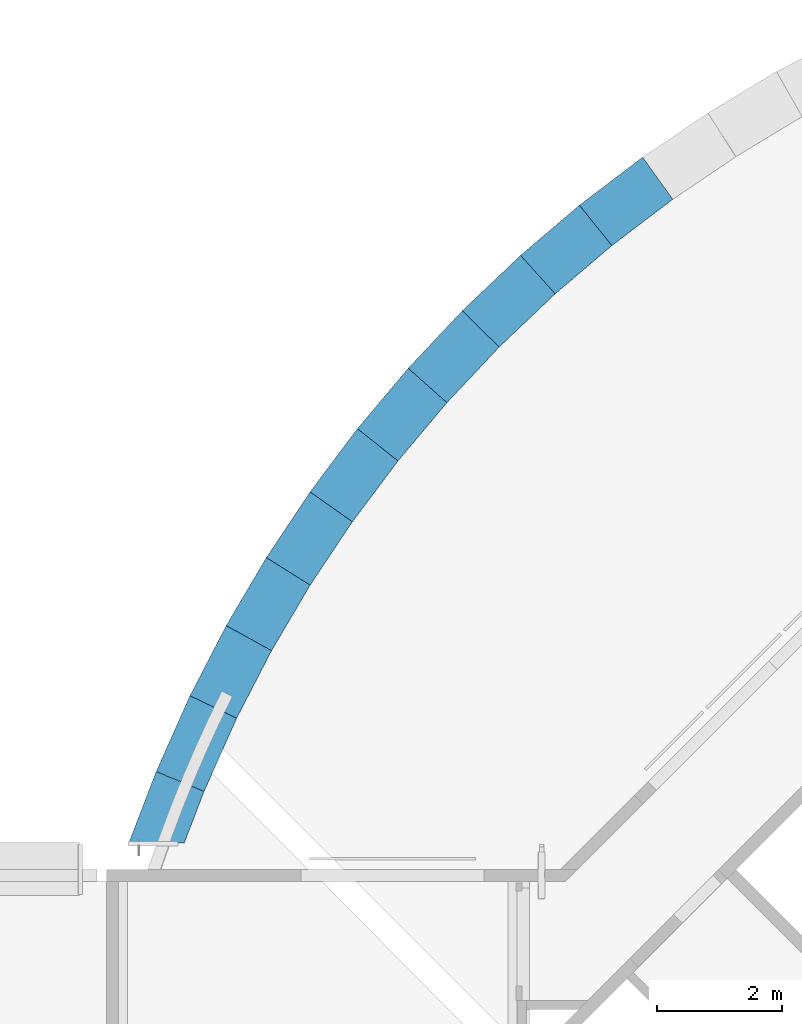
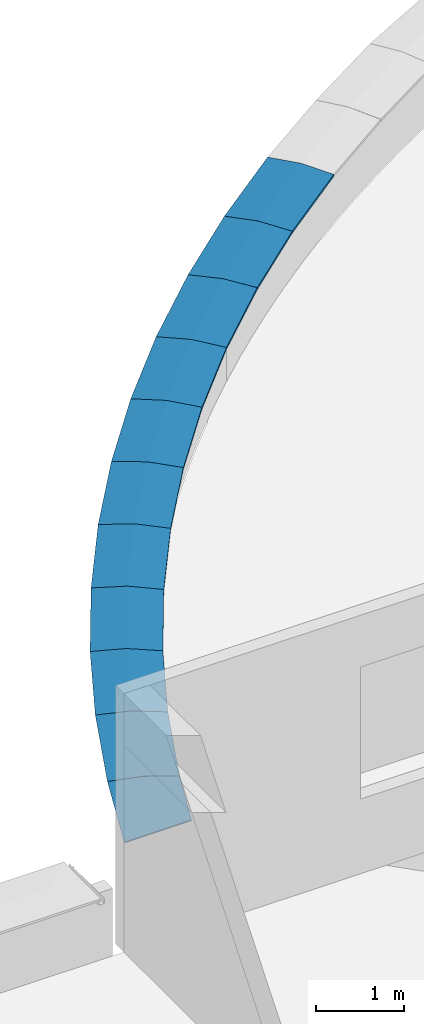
# One storey, part 31 of 38: 11 discrete accessories.
"""IFC4X3_ADD2 building model written with IfcOpenShell, lengths in millimetres."""

from ifc_helpers import new_model, si_unit, direction, frame, origin_with_axes, place, context, subcontext, project, spatial, polygons, source, transform, mapped, material, element, save


model = new_model("IFC4X3_ADD2")

# Units and contexts
model_context = context("Model", 3, precision=1e-05, world=origin_with_axes(), true_north=direction((0.0, 1.0)))
body_context = subcontext(model_context, "Body", "Model", "MODEL_VIEW")
ifc_project = project(units=[si_unit("LENGTHUNIT", "METRE", prefix="MILLI"), si_unit("AREAUNIT", "SQUARE_METRE"), si_unit("VOLUMEUNIT", "CUBIC_METRE"), si_unit("PLANEANGLEUNIT", "RADIAN"), si_unit("TIMEUNIT", "SECOND"), si_unit("MASSUNIT", "GRAM")], contexts=[model_context])

# Site, building, storey
site_placement = place(None, origin_with_axes())
site = spatial("IfcSite", under=ifc_project, at=site_placement, Name="Site", CompositionType="ELEMENT")
building_placement = place(site_placement, origin_with_axes())
building = spatial("IfcBuilding", under=site, at=building_placement, Name="IFC Building Story")
storey_placement = place(building_placement, frame((0.0, 0.0, 10800.0), z_axis=(0.0, 0.0, 1.0), x_axis=(1.0, 0.0, 0.0)))
storey = spatial("IfcBuildingStorey", under=building, at=storey_placement, Name="030", Elevation=10800.0)

# Discrete accessories
ifc_material = material(Name="BB_Metaal_Aluminium_Buitenschrijnwerk")
shared_shape_1 = source(origin_with_axes(), body_context, "Body", "Tessellation", [
    polygons([(-1.29786000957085, -46.4641064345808, -1.69828907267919), (-0.8938409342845, -32.0000000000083, -23.3944487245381), (-0.89384093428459, -32.0000000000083, -20.0000000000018), (-0.837975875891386, -30.0000000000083, -20.0000000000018), (-0.837975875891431, -30.0000000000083, -30.0000000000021), (-1.3966264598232, -50.0000000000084, -1.89268853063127e-12), (10.1953731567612, 364.999999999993, 36.3077953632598), (21.7873727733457, 779.999999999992, -1.76670900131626e-12), (21.7873727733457, 779.999999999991, -30.0000000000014), (21.5080474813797, 769.999999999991, -20.0000000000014), (21.5475500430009, 771.414213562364, -18.5857864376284), (21.7315077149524, 777.999999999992, -25.1715728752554), (21.7315077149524, 777.999999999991, -1.83266234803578), (10.1953731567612, 364.999999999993, 34.300155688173), (1282.59875396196, -32.0000000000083, -23.3944487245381), (1283.00277303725, -46.4641064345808, -1.69828907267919), (1271.50953987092, 364.999999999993, 34.300155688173), (1259.97340531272, 777.999999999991, -1.83266234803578), (1259.97340531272, 777.999999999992, -25.1715728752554), (1260.15736298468, 771.414213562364, -18.5857864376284), (1260.1968655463, 769.999999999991, -20.0000000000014), (1259.91754025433, 779.999999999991, -30.0000000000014), (1259.91754025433, 779.999999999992, -1.76670900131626e-12), (1271.50953987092, 364.999999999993, 36.3077953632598), (1283.1015394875, -50.0000000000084, -1.89293471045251e-12), (1282.54288890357, -30.0000000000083, -30.0000000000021), (1282.54288890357, -30.0000000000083, -20.0000000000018), (1282.59875396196, -32.0000000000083, -20.0000000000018)], [[[2, 3, 4]], [[2, 4, 5]], [[5, 6, 1]], [[5, 1, 2]], [[14, 1, 6]], [[14, 6, 7]], [[7, 8, 13]], [[7, 13, 14]], [[8, 9, 12]], [[8, 12, 13]], [[9, 10, 11]], [[9, 11, 12]], [[19, 20, 21]], [[19, 21, 22]], [[22, 23, 18]], [[22, 18, 19]], [[23, 24, 17]], [[23, 17, 18]], [[24, 25, 16]], [[24, 16, 17]], [[25, 26, 15]], [[25, 15, 16]], [[26, 27, 15]], [[27, 28, 15]], [[2, 1, 16, 15]], [[1, 14, 17, 16]], [[7, 6, 25, 24]], [[4, 3, 28, 27]], [[6, 5, 26, 25]], [[3, 2, 15, 28]], [[5, 4, 27, 26]], [[8, 7, 24, 23]], [[14, 13, 18, 17]], [[9, 8, 23, 22]], [[10, 9, 22, 21]], [[11, 10, 21, 20]], [[12, 11, 20, 19]], [[13, 12, 19, 18]]]),
])
discrete_accessory_1_placement = place(storey_placement, frame((-38713.1482171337, 40525.1638681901, 830.0), z_axis=(0.0, 0.0, 1.0), x_axis=(-0.7248991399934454, -0.6888550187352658, 0.0)))
element("IfcDiscreteAccessory", 1, at=discrete_accessory_1_placement, inside=storey, material=ifc_material, Name="BB_05.10.23#04_AluminiumMuurafdek, 830 mm_GLI:XX_Geen", ObjectType="BB_05.10.23#04_AluminiumMuurafdek, 830 mm_GLI:XX_Geen", PredefinedType="USERDEFINED", context=body_context, shape_type="MappedRepresentation", body=[
    mapped(shared_shape_1, transform((0.0, 0.0, 0.0))),
])
shared_shape_2 = source(origin_with_axes(), body_context, "Body", "Tessellation", [
    polygons([(-1.2978600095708, 46.4641064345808, -1.69828907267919), (10.1953731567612, -364.999999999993, 34.300155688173), (21.7315077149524, -777.999999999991, -1.83266234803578), (21.7315077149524, -777.999999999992, -25.1715728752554), (21.5475500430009, -771.414213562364, -18.5857864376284), (21.5080474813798, -769.999999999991, -20.0000000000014), (21.7873727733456, -779.999999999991, -30.0000000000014), (21.7873727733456, -779.999999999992, -1.76670900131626e-12), (10.1953731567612, -364.999999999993, 36.3077953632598), (-1.3966264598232, 50.0000000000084, -1.89409851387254e-12), (-0.837975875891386, 30.0000000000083, -30.0000000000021), (-0.837975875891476, 30.0000000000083, -20.0000000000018), (-0.89384093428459, 32.0000000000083, -20.0000000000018), (-0.893840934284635, 32.0000000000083, -23.3944487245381), (1266.17153597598, 32.0000000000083, -23.3944487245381), (1266.17153597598, 32.0000000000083, -20.0000000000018), (1266.11567091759, 30.0000000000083, -20.0000000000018), (1266.11567091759, 30.0000000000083, -30.0000000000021), (1266.67432150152, 50.0000000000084, -1.89691848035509e-12), (1255.08232188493, -364.999999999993, 36.3077953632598), (1243.49032226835, -779.999999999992, -1.76670900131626e-12), (1243.49032226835, -779.999999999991, -30.0000000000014), (1243.76964756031, -769.999999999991, -20.0000000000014), (1243.73014499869, -771.414213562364, -18.5857864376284), (1243.54618732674, -777.999999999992, -25.1715728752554), (1243.54618732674, -777.999999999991, -1.83266234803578), (1255.08232188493, -364.999999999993, 34.300155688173), (1266.57555505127, 46.4641064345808, -1.69828907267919)], [[[4, 5, 6]], [[4, 6, 7]], [[7, 8, 3]], [[7, 3, 4]], [[8, 9, 2]], [[8, 2, 3]], [[9, 10, 1]], [[9, 1, 2]], [[14, 1, 10]], [[14, 10, 11]], [[11, 12, 14]], [[12, 13, 14]], [[15, 16, 17]], [[15, 17, 18]], [[18, 19, 28]], [[18, 28, 15]], [[19, 20, 27]], [[19, 27, 28]], [[20, 21, 26]], [[20, 26, 27]], [[21, 22, 25]], [[21, 25, 26]], [[22, 23, 24]], [[22, 24, 25]], [[14, 15, 28, 1]], [[1, 28, 27, 2]], [[9, 20, 19, 10]], [[12, 17, 16, 13]], [[10, 19, 18, 11]], [[13, 16, 15, 14]], [[11, 18, 17, 12]], [[8, 21, 20, 9]], [[2, 27, 26, 3]], [[7, 22, 21, 8]], [[6, 23, 22, 7]], [[5, 24, 23, 6]], [[4, 25, 24, 5]], [[3, 26, 25, 4]]]),
])
discrete_accessory_2_placement = place(storey_placement, frame((-40508.7930561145, 38720.2791639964, 830.0), z_axis=(0.0, 0.0, 1.0), x_axis=(0.6848599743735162, 0.7286746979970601, 0.0)))
element("IfcDiscreteAccessory", 2, at=discrete_accessory_2_placement, inside=storey, material=ifc_material, Name="BB_05.10.23#04_AluminiumMuurafdek, 830 mm_GLI:XX_Geen", ObjectType="BB_05.10.23#04_AluminiumMuurafdek, 830 mm_GLI:XX_Geen", PredefinedType="USERDEFINED", context=body_context, shape_type="MappedRepresentation", body=[
    mapped(shared_shape_2, transform((0.0, 0.0, 0.0))),
])
shared_shape_3 = source(origin_with_axes(), body_context, "Body", "Tessellation", [
    polygons([(-1.29786000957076, 46.4641064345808, -1.6982890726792), (10.1953731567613, -364.999999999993, 34.300155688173), (21.7315077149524, -777.999999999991, -1.83266234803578), (21.7315077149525, -777.999999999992, -25.1715728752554), (21.5475500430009, -771.414213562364, -18.5857864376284), (21.5080474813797, -769.999999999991, -20.0000000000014), (21.7873727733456, -779.999999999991, -30.0000000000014), (21.7873727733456, -779.999999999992, -1.76670900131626e-12), (10.1953731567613, -364.999999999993, 36.3077953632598), (-1.39662645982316, 50.0000000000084, -1.89691848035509e-12), (-0.837975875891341, 30.0000000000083, -30.0000000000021), (-0.837975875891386, 30.0000000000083, -20.0000000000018), (-0.89384093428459, 32.0000000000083, -20.0000000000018), (-0.89384093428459, 32.0000000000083, -23.3944487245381), (1262.53313159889, 32.0000000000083, -23.3944487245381), (1262.53313159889, 32.0000000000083, -20.0000000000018), (1262.4772665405, 30.0000000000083, -20.0000000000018), (1262.4772665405, 30.0000000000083, -30.0000000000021), (1263.03591712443, 50.0000000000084, -1.89691848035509e-12), (1251.44391750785, -364.999999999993, 36.3077953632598), (1239.85191789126, -779.999999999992, -1.76670900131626e-12), (1239.85191789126, -779.999999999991, -30.0000000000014), (1240.13124318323, -769.999999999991, -20.0000000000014), (1240.09174062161, -771.414213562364, -18.5857864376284), (1239.90778294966, -777.999999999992, -25.1715728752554), (1239.90778294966, -777.999999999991, -1.83266234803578), (1251.44391750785, -364.999999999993, 34.300155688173), (1262.93715067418, 46.4641064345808, -1.69828907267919)], [[[4, 5, 6]], [[4, 6, 7]], [[7, 8, 3]], [[7, 3, 4]], [[8, 9, 2]], [[8, 2, 3]], [[9, 10, 1]], [[9, 1, 2]], [[14, 1, 10]], [[14, 10, 11]], [[11, 12, 14]], [[12, 13, 14]], [[15, 16, 17]], [[15, 17, 18]], [[18, 19, 28]], [[18, 28, 15]], [[19, 20, 27]], [[19, 27, 28]], [[20, 21, 26]], [[20, 26, 27]], [[21, 22, 25]], [[21, 25, 26]], [[22, 23, 24]], [[22, 24, 25]], [[14, 15, 28, 1]], [[1, 28, 27, 2]], [[9, 20, 19, 10]], [[12, 17, 16, 13]], [[10, 19, 18, 11]], [[13, 16, 15, 14]], [[11, 18, 17, 12]], [[8, 21, 20, 9]], [[2, 27, 26, 3]], [[7, 22, 21, 8]], [[6, 23, 22, 7]], [[5, 24, 23, 6]], [[4, 25, 24, 5]], [[3, 26, 25, 4]]]),
])
discrete_accessory_3_placement = place(storey_placement, frame((-41320.4305919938, 37754.3711921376, 830.0), z_axis=(0.0, 0.0, 1.0), x_axis=(0.6433197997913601, 0.7655975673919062, 0.0)))
element("IfcDiscreteAccessory", 3, at=discrete_accessory_3_placement, inside=storey, material=ifc_material, Name="BB_05.10.23#04_AluminiumMuurafdek, 830 mm_GLI:XX_Geen", ObjectType="BB_05.10.23#04_AluminiumMuurafdek, 830 mm_GLI:XX_Geen", PredefinedType="USERDEFINED", context=body_context, shape_type="MappedRepresentation", body=[
    mapped(shared_shape_3, transform((0.0, 0.0, 0.0))),
])
shared_shape_4 = source(origin_with_axes(), body_context, "Body", "Tessellation", [
    polygons([(-1.29786000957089, 46.4641064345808, -1.69828907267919), (10.1953731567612, -364.999999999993, 34.300155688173), (21.7315077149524, -777.999999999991, -1.83266234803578), (21.7315077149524, -777.999999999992, -25.1715728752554), (21.5475500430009, -771.414213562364, -18.5857864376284), (21.5080474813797, -769.999999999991, -20.0000000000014), (21.7873727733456, -779.999999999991, -30.0000000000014), (21.7873727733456, -779.999999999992, -1.76670900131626e-12), (10.1953731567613, -364.999999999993, 36.3077953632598), (-1.39662645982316, 50.0000000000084, -1.89691848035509e-12), (-0.837975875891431, 30.0000000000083, -30.0000000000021), (-0.837975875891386, 30.0000000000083, -20.0000000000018), (-0.89384093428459, 32.0000000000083, -20.0000000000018), (-0.89384093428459, 32.0000000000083, -23.3944487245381), (1262.83624447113, 32.0000000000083, -23.3944487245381), (1262.83624447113, 32.0000000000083, -20.0000000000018), (1262.78037941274, 30.0000000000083, -20.0000000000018), (1262.78037941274, 30.0000000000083, -30.0000000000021), (1263.33902999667, 50.0000000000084, -1.89691848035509e-12), (1251.74703038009, -364.999999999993, 36.3077953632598), (1240.1550307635, -779.999999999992, -1.76670900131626e-12), (1240.1550307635, -779.999999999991, -30.0000000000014), (1240.43435605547, -769.999999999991, -20.0000000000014), (1240.39485349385, -771.414213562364, -18.5857864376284), (1240.2108958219, -777.999999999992, -25.1715728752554), (1240.2108958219, -777.999999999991, -1.83266234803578), (1251.74703038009, -364.999999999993, 34.300155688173), (1263.24026354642, 46.4641064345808, -1.69828907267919)], [[[4, 5, 6]], [[4, 6, 7]], [[7, 8, 3]], [[7, 3, 4]], [[8, 9, 2]], [[8, 2, 3]], [[9, 10, 1]], [[9, 1, 2]], [[14, 1, 10]], [[14, 10, 11]], [[11, 12, 14]], [[12, 13, 14]], [[15, 16, 17]], [[15, 17, 18]], [[18, 19, 28]], [[18, 28, 15]], [[19, 20, 27]], [[19, 27, 28]], [[20, 21, 26]], [[20, 26, 27]], [[21, 22, 25]], [[21, 25, 26]], [[22, 23, 24]], [[22, 24, 25]], [[14, 15, 28, 1]], [[1, 28, 27, 2]], [[9, 20, 19, 10]], [[12, 17, 16, 13]], [[10, 19, 18, 11]], [[13, 16, 15, 14]], [[11, 18, 17, 12]], [[8, 21, 20, 9]], [[2, 27, 26, 3]], [[7, 22, 21, 8]], [[6, 23, 22, 7]], [[5, 24, 23, 6]], [[4, 25, 24, 5]], [[3, 26, 25, 4]]]),
])
discrete_accessory_4_placement = place(storey_placement, frame((-42077.4082609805, 36744.6764667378, 830.0), z_axis=(0.0, 0.0, 1.0), x_axis=(0.5998512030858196, 0.8001115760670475, 0.0)))
element("IfcDiscreteAccessory", 4, at=discrete_accessory_4_placement, inside=storey, material=ifc_material, Name="BB_05.10.23#04_AluminiumMuurafdek, 830 mm_GLI:XX_Geen", ObjectType="BB_05.10.23#04_AluminiumMuurafdek, 830 mm_GLI:XX_Geen", PredefinedType="USERDEFINED", context=body_context, shape_type="MappedRepresentation", body=[
    mapped(shared_shape_4, transform((0.0, 0.0, 0.0))),
])
shared_shape_5 = source(origin_with_axes(), body_context, "Body", "Tessellation", [
    polygons([(-1.29786000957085, 46.4641064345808, -1.69828907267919), (10.1953731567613, -364.999999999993, 34.300155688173), (21.7315077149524, -777.999999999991, -1.83266234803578), (21.7315077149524, -777.999999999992, -25.1715728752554), (21.5475500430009, -771.414213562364, -18.5857864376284), (21.5080474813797, -769.999999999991, -20.0000000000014), (21.7873727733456, -779.999999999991, -30.0000000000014), (21.7873727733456, -779.999999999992, -1.76670900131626e-12), (10.1953731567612, -364.999999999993, 36.3077953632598), (-1.39662645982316, 50.0000000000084, -1.89691848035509e-12), (-0.837975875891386, 30.0000000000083, -30.0000000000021), (-0.837975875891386, 30.0000000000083, -20.0000000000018), (-0.89384093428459, 32.0000000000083, -20.0000000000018), (-0.893840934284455, 32.0000000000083, -23.3944487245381), (1262.67655696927, 32.0000000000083, -23.3944487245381), (1262.67655696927, 32.0000000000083, -20.0000000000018), (1262.62069191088, 30.0000000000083, -20.0000000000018), (1262.62069191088, 30.0000000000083, -30.0000000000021), (1263.17934249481, 50.0000000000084, -1.89434469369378e-12), (1251.58734287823, -364.999999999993, 36.3077953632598), (1239.99534326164, -779.999999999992, -1.76670900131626e-12), (1239.99534326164, -779.999999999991, -30.0000000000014), (1240.27466855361, -769.999999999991, -20.0000000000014), (1240.23516599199, -771.414213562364, -18.5857864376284), (1240.05120832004, -777.999999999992, -25.1715728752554), (1240.05120832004, -777.999999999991, -1.83266234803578), (1251.58734287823, -364.999999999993, 34.300155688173), (1263.08057604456, 46.4641064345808, -1.69828907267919)], [[[4, 5, 6]], [[4, 6, 7]], [[7, 8, 3]], [[7, 3, 4]], [[8, 9, 2]], [[8, 2, 3]], [[9, 10, 1]], [[9, 1, 2]], [[14, 1, 10]], [[14, 10, 11]], [[11, 12, 14]], [[12, 13, 14]], [[15, 16, 17]], [[15, 17, 18]], [[18, 19, 28]], [[18, 28, 15]], [[19, 20, 27]], [[19, 27, 28]], [[20, 21, 26]], [[20, 26, 27]], [[21, 22, 25]], [[21, 25, 26]], [[22, 23, 24]], [[22, 24, 25]], [[14, 15, 28, 1]], [[1, 28, 27, 2]], [[9, 20, 19, 10]], [[12, 17, 16, 13]], [[10, 19, 18, 11]], [[13, 16, 15, 14]], [[11, 18, 17, 12]], [[8, 21, 20, 9]], [[2, 27, 26, 3]], [[7, 22, 21, 8]], [[6, 23, 22, 7]], [[5, 24, 23, 6]], [[4, 25, 24, 5]], [[3, 26, 25, 4]]]),
])
discrete_accessory_5_placement = place(storey_placement, frame((-42777.1071506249, 35694.668330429, 830.0), z_axis=(0.0, 0.0, 1.0), x_axis=(0.5545319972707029, 0.8321624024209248, 0.0)))
element("IfcDiscreteAccessory", 5, at=discrete_accessory_5_placement, inside=storey, material=ifc_material, Name="BB_05.10.23#04_AluminiumMuurafdek, 830 mm_GLI:XX_Geen", ObjectType="BB_05.10.23#04_AluminiumMuurafdek, 830 mm_GLI:XX_Geen", PredefinedType="USERDEFINED", context=body_context, shape_type="MappedRepresentation", body=[
    mapped(shared_shape_5, transform((0.0, 0.0, 0.0))),
])
shared_shape_6 = source(origin_with_axes(), body_context, "Body", "Tessellation", [
    polygons([(-1.29786000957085, 46.4641064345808, -1.6982890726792), (10.1953731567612, -364.999999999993, 34.300155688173), (21.7315077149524, -777.999999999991, -1.83266234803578), (21.7315077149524, -777.999999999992, -25.1715728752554), (21.547550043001, -771.414213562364, -18.5857864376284), (21.5080474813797, -769.999999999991, -20.0000000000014), (21.7873727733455, -779.999999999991, -30.0000000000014), (21.7873727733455, -779.999999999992, -1.76670900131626e-12), (10.1953731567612, -364.999999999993, 36.3077953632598), (-1.39662645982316, 50.0000000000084, -1.89268853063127e-12), (-0.837975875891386, 30.0000000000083, -30.0000000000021), (-0.837975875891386, 30.0000000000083, -20.0000000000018), (-0.893840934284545, 32.0000000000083, -20.0000000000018), (-0.89384093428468, 32.0000000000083, -23.3944487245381), (1262.54091999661, 32.0000000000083, -23.3944487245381), (1262.54091999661, 32.0000000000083, -20.0000000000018), (1262.48505493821, 30.0000000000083, -20.0000000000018), (1262.48505493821, 30.0000000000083, -30.0000000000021), (1263.04370552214, 50.0000000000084, -1.89691848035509e-12), (1251.45170590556, -364.999999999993, 36.3077953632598), (1239.85970628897, -779.999999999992, -1.76670900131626e-12), (1239.85970628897, -779.999999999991, -30.0000000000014), (1240.13903158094, -769.999999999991, -20.0000000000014), (1240.09952901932, -771.414213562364, -18.5857864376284), (1239.91557134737, -777.999999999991, -25.1715728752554), (1239.91557134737, -777.999999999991, -1.83266234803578), (1251.45170590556, -364.999999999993, 34.300155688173), (1262.94493907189, 46.4641064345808, -1.6982890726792)], [[[4, 5, 6]], [[4, 6, 7]], [[7, 8, 3]], [[7, 3, 4]], [[8, 9, 2]], [[8, 2, 3]], [[9, 10, 1]], [[9, 1, 2]], [[14, 1, 10]], [[14, 10, 11]], [[11, 12, 14]], [[12, 13, 14]], [[15, 16, 17]], [[15, 17, 18]], [[18, 19, 28]], [[18, 28, 15]], [[19, 20, 27]], [[19, 27, 28]], [[20, 21, 26]], [[20, 26, 27]], [[21, 22, 25]], [[21, 25, 26]], [[22, 23, 24]], [[22, 24, 25]], [[14, 15, 28, 1]], [[1, 28, 27, 2]], [[9, 20, 19, 10]], [[12, 17, 16, 13]], [[10, 19, 18, 11]], [[13, 16, 15, 14]], [[11, 18, 17, 12]], [[8, 21, 20, 9]], [[2, 27, 26, 3]], [[7, 22, 21, 8]], [[6, 23, 22, 7]], [[5, 24, 23, 6]], [[4, 25, 24, 5]], [[3, 26, 25, 4]]]),
])
discrete_accessory_6_placement = place(storey_placement, frame((-43417.4054448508, 34607.5752127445, 830.0), z_axis=(0.0, 0.0, 1.0), x_axis=(0.5075098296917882, 0.8616459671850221, 0.0)))
element("IfcDiscreteAccessory", 6, at=discrete_accessory_6_placement, inside=storey, material=ifc_material, Name="BB_05.10.23#04_AluminiumMuurafdek, 830 mm_GLI:XX_Geen", ObjectType="BB_05.10.23#04_AluminiumMuurafdek, 830 mm_GLI:XX_Geen", PredefinedType="USERDEFINED", context=body_context, shape_type="MappedRepresentation", body=[
    mapped(shared_shape_6, transform((0.0, 0.0, 0.0))),
])
shared_shape_7 = source(origin_with_axes(), body_context, "Body", "Tessellation", [
    polygons([(-1.29786000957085, 46.4641064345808, -1.69828907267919), (10.1953731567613, -364.999999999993, 34.300155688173), (21.7315077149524, -777.999999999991, -1.83266234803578), (21.7315077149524, -777.999999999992, -25.1715728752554), (21.547550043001, -771.414213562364, -18.5857864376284), (21.5080474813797, -769.999999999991, -20.0000000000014), (21.7873727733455, -779.999999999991, -30.0000000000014), (21.7873727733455, -779.999999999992, -1.76670900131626e-12), (10.1953731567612, -364.999999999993, 36.3077953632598), (-1.39662645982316, 50.0000000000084, -1.89268853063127e-12), (-0.837975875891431, 30.0000000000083, -30.0000000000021), (-0.837975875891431, 30.0000000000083, -20.0000000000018), (-0.893840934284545, 32.0000000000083, -20.0000000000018), (-0.893840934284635, 32.0000000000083, -23.3944487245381), (1262.42975639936, 32.0000000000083, -23.3944487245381), (1262.42975639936, 32.0000000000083, -20.0000000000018), (1262.37389134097, 30.0000000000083, -20.0000000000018), (1262.37389134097, 30.0000000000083, -30.0000000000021), (1262.9325419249, 50.0000000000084, -1.89434469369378e-12), (1251.34054230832, -364.999999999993, 36.3077953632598), (1239.74854269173, -779.999999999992, -1.76670900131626e-12), (1239.74854269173, -779.999999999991, -30.0000000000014), (1240.0278679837, -769.999999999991, -20.0000000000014), (1239.98836542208, -771.414213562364, -18.5857864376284), (1239.80440775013, -777.999999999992, -25.1715728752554), (1239.80440775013, -777.999999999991, -1.83266234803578), (1251.34054230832, -364.999999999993, 34.300155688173), (1262.83377547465, 46.4641064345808, -1.69828907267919)], [[[4, 5, 6]], [[4, 6, 7]], [[7, 8, 3]], [[7, 3, 4]], [[8, 9, 2]], [[8, 2, 3]], [[9, 10, 1]], [[9, 1, 2]], [[14, 1, 10]], [[14, 10, 11]], [[11, 12, 14]], [[12, 13, 14]], [[15, 16, 17]], [[15, 17, 18]], [[18, 19, 28]], [[18, 28, 15]], [[19, 20, 27]], [[19, 27, 28]], [[20, 21, 26]], [[20, 26, 27]], [[21, 22, 25]], [[21, 25, 26]], [[22, 23, 24]], [[22, 24, 25]], [[14, 15, 28, 1]], [[1, 28, 27, 2]], [[9, 20, 19, 10]], [[12, 17, 16, 13]], [[10, 19, 18, 11]], [[13, 16, 15, 14]], [[11, 18, 17, 12]], [[8, 21, 20, 9]], [[2, 27, 26, 3]], [[7, 22, 21, 8]], [[6, 23, 22, 7]], [[5, 24, 23, 6]], [[4, 25, 24, 5]], [[3, 26, 25, 4]]]),
])
discrete_accessory_7_placement = place(storey_placement, frame((-43996.3610771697, 33486.734795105, 830.0), z_axis=(0.0, 0.0, 1.0), x_axis=(0.4589291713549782, 0.8884728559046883, 0.0)))
element("IfcDiscreteAccessory", 7, at=discrete_accessory_7_placement, inside=storey, material=ifc_material, Name="BB_05.10.23#04_AluminiumMuurafdek, 830 mm_GLI:XX_Geen", ObjectType="BB_05.10.23#04_AluminiumMuurafdek, 830 mm_GLI:XX_Geen", PredefinedType="USERDEFINED", context=body_context, shape_type="MappedRepresentation", body=[
    mapped(shared_shape_7, transform((0.0, 0.0, 0.0))),
])
shared_shape_8 = source(origin_with_axes(), body_context, "Body", "Tessellation", [
    polygons([(-1.29786000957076, 46.4641064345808, -1.6982890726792), (10.1953731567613, -364.999999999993, 34.300155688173), (21.7315077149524, -777.999999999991, -1.83266234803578), (21.7315077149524, -777.999999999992, -25.1715728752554), (21.5475500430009, -771.414213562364, -18.5857864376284), (21.5080474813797, -769.999999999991, -20.0000000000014), (21.7873727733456, -779.999999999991, -30.0000000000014), (21.7873727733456, -779.999999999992, -1.76670900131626e-12), (10.1953731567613, -364.999999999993, 36.3077953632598), (-1.39662645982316, 50.0000000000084, -1.89691848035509e-12), (-0.837975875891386, 30.0000000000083, -30.0000000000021), (-0.837975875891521, 30.0000000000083, -20.0000000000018), (-0.89384093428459, 32.0000000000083, -20.0000000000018), (-0.89384093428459, 32.0000000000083, -23.3944487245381), (1326.95481034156, 32.0000000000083, -23.3944487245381), (1326.95481034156, 32.0000000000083, -20.0000000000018), (1326.89894528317, 30.0000000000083, -20.0000000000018), (1326.89894528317, 30.0000000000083, -30.0000000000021), (1327.4575958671, 50.0000000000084, -1.89691848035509e-12), (1315.86559625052, -364.999999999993, 36.3077953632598), (1304.27359663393, -779.999999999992, -1.76670900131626e-12), (1304.27359663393, -779.999999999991, -30.0000000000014), (1304.5529219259, -769.999999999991, -20.0000000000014), (1304.51341936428, -771.414213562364, -18.5857864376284), (1304.32946169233, -777.999999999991, -25.1715728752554), (1304.32946169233, -777.999999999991, -1.83266234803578), (1315.86559625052, -364.999999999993, 34.300155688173), (1327.35882941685, 46.4641064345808, -1.69828907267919)], [[[4, 5, 6]], [[4, 6, 7]], [[7, 8, 3]], [[7, 3, 4]], [[8, 9, 2]], [[8, 2, 3]], [[9, 10, 1]], [[9, 1, 2]], [[14, 1, 10]], [[14, 10, 11]], [[11, 12, 14]], [[12, 13, 14]], [[15, 16, 17]], [[15, 17, 18]], [[18, 19, 28]], [[18, 28, 15]], [[19, 20, 27]], [[19, 27, 28]], [[20, 21, 26]], [[20, 26, 27]], [[21, 22, 25]], [[21, 25, 26]], [[22, 23, 24]], [[22, 24, 25]], [[14, 15, 28, 1]], [[1, 28, 27, 2]], [[9, 20, 19, 10]], [[12, 17, 16, 13]], [[10, 19, 18, 11]], [[13, 16, 15, 14]], [[11, 18, 17, 12]], [[8, 21, 20, 9]], [[2, 27, 26, 3]], [[7, 22, 21, 8]], [[6, 23, 22, 7]], [[5, 24, 23, 6]], [[4, 25, 24, 5]], [[3, 26, 25, 4]]]),
])
discrete_accessory_8_placement = place(storey_placement, frame((-44536.1424361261, 32275.5065841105, 830.0), z_axis=(0.0, 0.0, 1.0), x_axis=(0.4070562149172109, 0.9134031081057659, 0.0)))
element("IfcDiscreteAccessory", 8, at=discrete_accessory_8_placement, inside=storey, material=ifc_material, Name="BB_05.10.23#04_AluminiumMuurafdek, 830 mm_GLI:XX_Geen", ObjectType="BB_05.10.23#04_AluminiumMuurafdek, 830 mm_GLI:XX_Geen", PredefinedType="USERDEFINED", context=body_context, shape_type="MappedRepresentation", body=[
    mapped(shared_shape_8, transform((0.0, 0.0, 0.0))),
])
shared_shape_9 = source(origin_with_axes(), body_context, "Body", "Tessellation", [
    polygons([(-1.29786000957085, -46.4641064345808, -1.6982890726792), (-0.89384093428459, -32.0000000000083, -23.3944487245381), (-0.89384093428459, -32.0000000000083, -20.0000000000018), (-0.837975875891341, -30.0000000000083, -20.0000000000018), (-0.837975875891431, -30.0000000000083, -30.0000000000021), (-1.39662645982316, -50.0000000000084, -1.89691848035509e-12), (10.1953731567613, 364.999999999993, 36.3077953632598), (21.7873727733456, 779.999999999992, -1.76670900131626e-12), (21.7873727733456, 779.999999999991, -30.0000000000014), (21.5080474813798, 769.999999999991, -20.0000000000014), (21.547550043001, 771.414213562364, -18.5857864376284), (21.7315077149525, 777.999999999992, -25.1715728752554), (21.7315077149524, 777.999999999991, -1.83266234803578), (10.1953731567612, 364.999999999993, 34.300155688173), (1235.89384093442, -32.0000000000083, -23.3944487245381), (1236.29786000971, -46.4641064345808, -1.6982890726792), (1224.80462684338, 364.999999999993, 34.300155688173), (1213.26849228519, 777.999999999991, -1.83266234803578), (1213.26849228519, 777.999999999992, -25.1715728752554), (1213.45244995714, 771.414213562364, -18.5857864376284), (1213.49195251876, 769.999999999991, -20.0000000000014), (1213.21262722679, 779.999999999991, -30.0000000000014), (1213.21262722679, 779.999999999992, -1.76670900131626e-12), (1224.80462684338, 364.999999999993, 36.3077953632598), (1236.39662645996, -50.0000000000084, -1.89691848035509e-12), (1235.83797587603, -30.0000000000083, -30.0000000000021), (1235.83797587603, -30.0000000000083, -20.0000000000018), (1235.89384093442, -32.0000000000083, -20.0000000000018)], [[[2, 3, 4]], [[2, 4, 5]], [[5, 6, 1]], [[5, 1, 2]], [[14, 1, 6]], [[14, 6, 7]], [[7, 8, 13]], [[7, 13, 14]], [[8, 9, 12]], [[8, 12, 13]], [[9, 10, 11]], [[9, 11, 12]], [[19, 20, 21]], [[19, 21, 22]], [[22, 23, 18]], [[22, 18, 19]], [[23, 24, 17]], [[23, 17, 18]], [[24, 25, 16]], [[24, 16, 17]], [[25, 26, 15]], [[25, 15, 16]], [[26, 27, 15]], [[27, 28, 15]], [[2, 1, 16, 15]], [[1, 14, 17, 16]], [[7, 6, 25, 24]], [[4, 3, 28, 27]], [[6, 5, 26, 25]], [[3, 2, 15, 28]], [[5, 4, 27, 26]], [[8, 7, 24, 23]], [[14, 13, 18, 17]], [[9, 8, 23, 22]], [[10, 9, 22, 21]], [[11, 10, 21, 20]], [[12, 11, 20, 19]], [[13, 12, 19, 18]]]),
])
discrete_accessory_9_placement = place(storey_placement, frame((-37772.9293141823, 41325.9218931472, 830.0), z_axis=(0.0, 0.0, 1.0), x_axis=(-0.7613108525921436, -0.648387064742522, 0.0)))
element("IfcDiscreteAccessory", 9, at=discrete_accessory_9_placement, inside=storey, material=ifc_material, Name="BB_05.10.23#04_AluminiumMuurafdek, 830 mm_GLI:XX_Geen", ObjectType="BB_05.10.23#04_AluminiumMuurafdek, 830 mm_GLI:XX_Geen", PredefinedType="USERDEFINED", context=body_context, shape_type="MappedRepresentation", body=[
    mapped(shared_shape_9, transform((0.0, 0.0, 0.0))),
])
shared_shape_10 = source(origin_with_axes(), body_context, "Body", "Tessellation", [
    polygons([(-1.2978600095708, -46.4641064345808, -1.69828907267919), (-0.893840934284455, -32.0000000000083, -23.3944487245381), (-0.89384093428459, -32.0000000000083, -20.0000000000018), (-0.837975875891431, -30.0000000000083, -20.0000000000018), (-0.837975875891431, -30.0000000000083, -30.0000000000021), (-1.39662645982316, -50.0000000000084, -1.89268853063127e-12), (10.1953731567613, 364.999999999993, 36.3077953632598), (21.7873727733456, 779.999999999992, -1.76670900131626e-12), (21.7873727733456, 779.999999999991, -30.0000000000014), (21.5080474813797, 769.999999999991, -20.0000000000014), (21.547550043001, 771.414213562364, -18.5857864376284), (21.7315077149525, 777.999999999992, -25.1715728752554), (21.7315077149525, 777.999999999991, -1.83266234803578), (10.1953731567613, 364.999999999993, 34.300155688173), (1270.23795097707, -32.0000000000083, -23.3944487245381), (1270.64197005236, -46.4641064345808, -1.69828907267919), (1259.14873688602, 364.999999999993, 34.300155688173), (1247.61260232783, 777.999999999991, -1.83266234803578), (1247.61260232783, 777.999999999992, -25.1715728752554), (1247.79655999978, 771.414213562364, -18.5857864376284), (1247.83606256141, 769.999999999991, -20.0000000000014), (1247.55673726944, 779.999999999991, -30.0000000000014), (1247.55673726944, 779.999999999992, -1.76670900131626e-12), (1259.14873688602, 364.999999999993, 36.3077953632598), (1270.74073650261, -50.0000000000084, -1.89268853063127e-12), (1270.18208591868, -30.0000000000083, -30.0000000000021), (1270.18208591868, -30.0000000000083, -20.0000000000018), (1270.23795097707, -32.0000000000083, -20.0000000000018)], [[[2, 3, 4]], [[2, 4, 5]], [[5, 6, 1]], [[5, 1, 2]], [[14, 1, 6]], [[14, 6, 7]], [[7, 8, 13]], [[7, 13, 14]], [[8, 9, 12]], [[8, 12, 13]], [[9, 10, 11]], [[9, 11, 12]], [[19, 20, 21]], [[19, 21, 22]], [[22, 23, 18]], [[22, 18, 19]], [[23, 24, 17]], [[23, 17, 18]], [[24, 25, 16]], [[24, 16, 17]], [[25, 26, 15]], [[25, 15, 16]], [[26, 27, 15]], [[27, 28, 15]], [[2, 1, 16, 15]], [[1, 14, 17, 16]], [[7, 6, 25, 24]], [[4, 3, 28, 27]], [[6, 5, 26, 25]], [[3, 2, 15, 28]], [[5, 4, 27, 26]], [[8, 7, 24, 23]], [[14, 13, 18, 17]], [[9, 8, 23, 22]], [[10, 9, 22, 21]], [[11, 10, 21, 20]], [[12, 11, 20, 19]], [[13, 12, 19, 18]]]),
])
discrete_accessory_10_placement = place(storey_placement, frame((-36762.3643673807, 42094.0318839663, 830.0), z_axis=(0.0, 0.0, 1.0), x_axis=(-0.7961315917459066, -0.6051235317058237, 0.0)))
element("IfcDiscreteAccessory", 10, at=discrete_accessory_10_placement, inside=storey, material=ifc_material, Name="BB_05.10.23#04_AluminiumMuurafdek, 830 mm_GLI:XX_Geen", ObjectType="BB_05.10.23#04_AluminiumMuurafdek, 830 mm_GLI:XX_Geen", PredefinedType="USERDEFINED", context=body_context, shape_type="MappedRepresentation", body=[
    mapped(shared_shape_10, transform((0.0, 0.0, 0.0))),
])
shared_shape_11 = source(origin_with_axes(), body_context, "Body", "Tessellation", [
    polygons([(904.392850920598, 780.000000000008, -1.37591498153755e-12), (1223.00000000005, -49.9999999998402, 5.06612852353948e-11), (1194.0806243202, -30.4710128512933, -30.0), (890.466426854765, 760.471012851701, -30.0), (608.454283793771, 365.005955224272, 37.1829460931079), (901.930733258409, 776.547379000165, -1.69828907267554), (1217.88720828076, -46.5473789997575, -1.69828907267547), (608.454283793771, 365.005955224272, 35.1753064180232), (891.859069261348, 762.423911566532, -23.3944487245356), (1196.97256188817, -32.4239115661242, -23.3944487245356), (891.859069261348, 762.423911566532, -19.895184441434), (1196.97256188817, -32.4239115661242, -19.895184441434), (890.466426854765, 760.471012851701, -19.895184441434), (1194.0806243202, -30.4710128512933, -19.895184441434)], [[[1, 2, 3, 4]], [[2, 1, 5]], [[6, 7, 8]], [[7, 6, 9, 10]], [[10, 9, 11, 12]], [[12, 11, 13, 14]], [[4, 3, 14, 13]], [[6, 8, 5]], [[6, 5, 1]], [[1, 4, 9]], [[1, 9, 6]], [[4, 13, 9]], [[13, 11, 9]], [[10, 12, 14]], [[10, 14, 3]], [[3, 2, 7]], [[3, 7, 10]], [[2, 5, 8]], [[2, 8, 7]]]),
    polygons([(1223.0, -50.0000000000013, 0.0), (0.0, -50.0000000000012, 0.0), (0.558650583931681, -30.0000000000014, -30.0), (1193.38312795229, -30.0000000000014, -30.0), (608.449905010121, 365.0, 36.3077953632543), (11.5919996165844, 365.0, 36.3077953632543), (11.5919996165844, 365.0, 34.3001556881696), (608.449905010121, 365.0, 34.3001556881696), (0.0987664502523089, -46.4641064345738, -1.69828907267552), (1217.76389463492, -46.464106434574, -1.6982890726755), (0.502785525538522, -32.0, -23.3944487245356), (1196.34481515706, -32.0, -23.3944487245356), (0.502785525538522, -32.0, -19.895184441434), (1196.34481515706, -32.0, -19.895184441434), (0.558650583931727, -30.0000000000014, -19.895184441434), (1193.38312795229, -30.0000000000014, -19.895184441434)], [[[1, 2, 3, 4]], [[2, 1, 5, 6]], [[7, 6, 5, 8]], [[9, 7, 8, 10]], [[11, 9, 10, 12]], [[13, 11, 12, 14]], [[15, 13, 14, 16]], [[3, 15, 16, 4]], [[11, 13, 15]], [[11, 15, 3]], [[3, 2, 9]], [[3, 9, 11]], [[2, 6, 7]], [[2, 7, 9]], [[10, 8, 5]], [[10, 5, 1]], [[1, 4, 12]], [[1, 12, 10]], [[4, 16, 12]], [[16, 14, 12]]]),
    polygons([(11.5919996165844, 365.0, 36.3077953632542), (23.1839992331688, 780.000000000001, 0.0), (23.1839992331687, 780.000000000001, -30.0), (22.9046739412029, 770.000000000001, -20.0), (22.9441765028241, 771.414213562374, -18.585786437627), (23.1281341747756, 778.000000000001, -25.1715728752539), (23.1281341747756, 778.000000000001, -1.83266234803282), (11.5919996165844, 365.0, 34.3001556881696), (904.392850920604, 780.000000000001, 0.0), (608.449905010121, 365.0, 36.3077953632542), (608.449905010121, 365.0, 34.3001556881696), (902.966619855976, 778.000000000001, -1.83266234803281), (902.966619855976, 778.000000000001, -25.1715728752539), (898.270193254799, 771.414213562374, -18.585786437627), (897.261695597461, 770.000000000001, -20.0), (904.392850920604, 780.000000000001, -29.9999999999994)], [[[7, 8, 1]], [[7, 1, 2]], [[2, 3, 6]], [[2, 6, 7]], [[3, 4, 5]], [[3, 5, 6]], [[9, 2, 1, 10]], [[1, 8, 11, 10]], [[8, 7, 12, 11]], [[13, 14, 15]], [[13, 15, 16]], [[16, 9, 12]], [[16, 12, 13]], [[9, 10, 11]], [[9, 11, 12]], [[7, 6, 13, 12]], [[6, 5, 14, 13]], [[5, 4, 15, 14]], [[3, 16, 15, 4]], [[2, 9, 16, 3]]]),
])
discrete_accessory_11_placement = place(storey_placement, frame((-44536.2073557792, 32275.5315044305, 830.0), z_axis=(0.0, 0.0, 1.0), x_axis=(-0.3583679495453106, -0.9335804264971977, 0.0)))
element("IfcDiscreteAccessory", 11, at=discrete_accessory_11_placement, inside=storey, material=ifc_material, Name="BB_05.10.23#04_AluminiumMuurafdek eindstuk, 830 mm_GMO:XX_Geen", ObjectType="BB_05.10.23#04_AluminiumMuurafdek eindstuk, 830 mm_GMO:XX_Geen", PredefinedType="USERDEFINED", context=body_context, shape_type="MappedRepresentation", body=[
    mapped(shared_shape_11, transform((0.0, 0.0, 0.0))),
])

save(model, "model.ifc")
